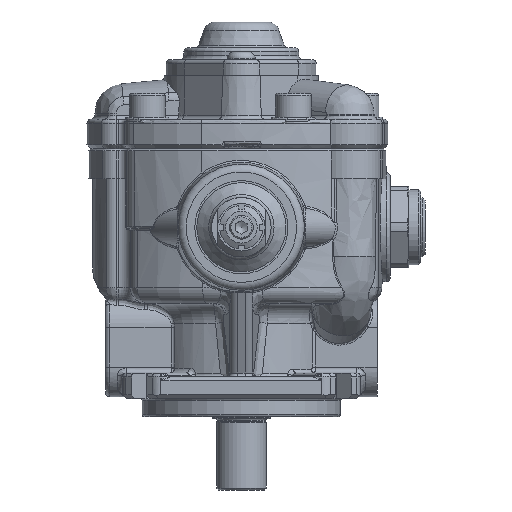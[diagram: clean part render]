
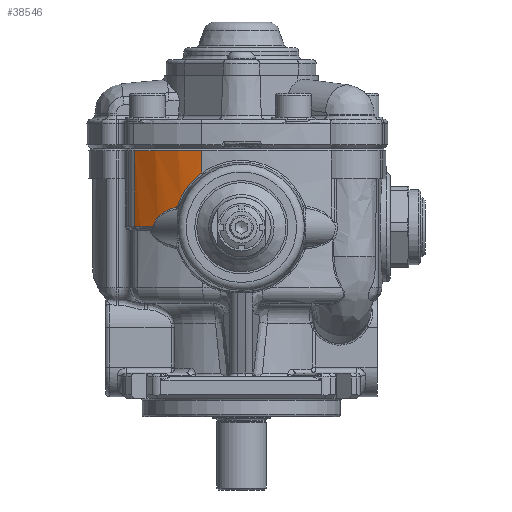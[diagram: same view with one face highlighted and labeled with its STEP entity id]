
A CAD part, front view. The second image highlights one B-rep face of the part: STEP entity #38546.
In plain terms, the highlighted cylindrical face has radius 79.124 mm (diameter 158.248 mm), a partial arc.
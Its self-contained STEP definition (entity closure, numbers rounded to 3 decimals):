
#3398=FACE_OUTER_BOUND('',#5650,.T.);
#5650=EDGE_LOOP('',(#29668,#29669,#29670,#29671,#29672,#29673,#29674,#29675));
#7083=B_SPLINE_CURVE_WITH_KNOTS('',3,(#65260,#65261,#65262,#65263,#65264),
 .UNSPECIFIED.,.F.,.F.,(4,1,4),(0.,0.047,0.094),
 .UNSPECIFIED.);
#7084=B_SPLINE_CURVE_WITH_KNOTS('',3,(#65309,#65310,#65311,#65312,#65313,
#65314,#65315),.UNSPECIFIED.,.F.,.F.,(4,1,1,1,4),(10.463,11.2,
11.691,11.936,12.182),.UNSPECIFIED.);
#7298=B_SPLINE_CURVE_WITH_KNOTS('',3,(#71090,#71091,#71092,#71093),
 .UNSPECIFIED.,.F.,.F.,(4,4),(0.,2.133),
 .UNSPECIFIED.);
#8718=CIRCLE('',#41530,79.124);
#8779=CIRCLE('',#41625,79.124);
#8781=CIRCLE('',#41628,79.124);
#10822=LINE('',#65200,#13036);
#11098=LINE('',#70773,#13312);
#13036=VECTOR('',#47685,10.);
#13312=VECTOR('',#48895,10.);
#15772=VERTEX_POINT('',#65179);
#15774=VERTEX_POINT('',#65198);
#15775=VERTEX_POINT('',#65256);
#15776=VERTEX_POINT('',#65258);
#15780=VERTEX_POINT('',#65308);
#16210=VERTEX_POINT('',#70677);
#16236=VERTEX_POINT('',#70771);
#16289=VERTEX_POINT('',#71061);
#20183=EDGE_CURVE('',#15774,#15772,#10822,.T.);
#20186=EDGE_CURVE('',#15776,#15775,#7083,.T.);
#20191=EDGE_CURVE('',#15775,#15780,#7084,.T.);
#20900=EDGE_CURVE('',#16210,#15774,#8718,.T.);
#20948=EDGE_CURVE('',#16210,#16236,#11098,.T.);
#21022=EDGE_CURVE('',#16289,#16236,#8779,.T.);
#21024=EDGE_CURVE('',#15780,#16289,#8781,.T.);
#21026=EDGE_CURVE('',#15772,#15776,#7298,.T.);
#29668=ORIENTED_EDGE('',*,*,#20186,.F.);
#29669=ORIENTED_EDGE('',*,*,#21026,.F.);
#29670=ORIENTED_EDGE('',*,*,#20183,.F.);
#29671=ORIENTED_EDGE('',*,*,#20900,.F.);
#29672=ORIENTED_EDGE('',*,*,#20948,.T.);
#29673=ORIENTED_EDGE('',*,*,#21022,.F.);
#29674=ORIENTED_EDGE('',*,*,#21024,.F.);
#29675=ORIENTED_EDGE('',*,*,#20191,.F.);
#34837=CYLINDRICAL_SURFACE('',#41632,79.124);
#38546=ADVANCED_FACE('',(#3398),#34837,.T.);
#41530=AXIS2_PLACEMENT_3D('',#70679,#48790,#48791);
#41625=AXIS2_PLACEMENT_3D('',#71063,#49031,#49032);
#41628=AXIS2_PLACEMENT_3D('',#71066,#49037,#49038);
#41632=AXIS2_PLACEMENT_3D('',#71094,#49045,#49046);
#47685=DIRECTION('',(0.,0.,-1.));
#48790=DIRECTION('center_axis',(0.,0.,1.));
#48791=DIRECTION('ref_axis',(-0.65,-0.76,0.));
#48895=DIRECTION('',(0.,0.,-1.));
#49031=DIRECTION('center_axis',(0.,0.,-1.));
#49032=DIRECTION('ref_axis',(-0.592,-0.806,0.));
#49037=DIRECTION('center_axis',(0.,0.,-1.));
#49038=DIRECTION('ref_axis',(-0.53,-0.848,0.));
#49045=DIRECTION('center_axis',(0.,0.,-1.));
#49046=DIRECTION('ref_axis',(0.65,0.76,0.));
#65179=CARTESIAN_POINT('',(108.594,-73.899,79.631));
#65198=CARTESIAN_POINT('',(108.594,-73.899,90.883));
#65200=CARTESIAN_POINT('',(108.594,-73.899,91.783));
#65256=CARTESIAN_POINT('',(95.726,-69.779,62.547));
#65258=CARTESIAN_POINT('',(96.357,-70.039,63.134));
#65260=CARTESIAN_POINT('Ctrl Pts',(96.357,-70.039,63.134));
#65261=CARTESIAN_POINT('Ctrl Pts',(96.306,-70.018,62.986));
#65262=CARTESIAN_POINT('Ctrl Pts',(96.132,-69.947,62.722));
#65263=CARTESIAN_POINT('Ctrl Pts',(95.866,-69.837,62.583));
#65264=CARTESIAN_POINT('Ctrl Pts',(95.726,-69.779,62.547));
#65308=CARTESIAN_POINT('',(84.3,-63.878,52.783));
#65309=CARTESIAN_POINT('Ctrl Pts',(95.726,-69.779,62.547));
#65310=CARTESIAN_POINT('Ctrl Pts',(93.547,-68.87,61.988));
#65311=CARTESIAN_POINT('Ctrl Pts',(90.088,-67.231,60.573));
#65312=CARTESIAN_POINT('Ctrl Pts',(86.574,-65.262,57.755));
#65313=CARTESIAN_POINT('Ctrl Pts',(84.829,-64.209,55.173));
#65314=CARTESIAN_POINT('Ctrl Pts',(84.366,-63.919,53.597));
#65315=CARTESIAN_POINT('Ctrl Pts',(84.3,-63.878,52.783));
#70677=CARTESIAN_POINT('',(74.743,-56.865,90.883));
#70679=CARTESIAN_POINT('Origin',(126.2,3.241,90.883));
#70771=CARTESIAN_POINT('',(74.743,-56.865,52.783));
#70773=CARTESIAN_POINT('',(74.743,-56.865,91.783));
#71061=CARTESIAN_POINT('',(82.883,-62.972,52.783));
#71063=CARTESIAN_POINT('Origin',(126.2,3.241,52.783));
#71066=CARTESIAN_POINT('Origin',(126.2,3.241,52.783));
#71090=CARTESIAN_POINT('Ctrl Pts',(108.594,-73.899,79.631));
#71091=CARTESIAN_POINT('Ctrl Pts',(102.973,-72.616,75.574));
#71092=CARTESIAN_POINT('Ctrl Pts',(98.634,-70.966,69.794));
#71093=CARTESIAN_POINT('Ctrl Pts',(96.357,-70.039,63.134));
#71094=CARTESIAN_POINT('Origin',(126.2,3.241,91.783));
